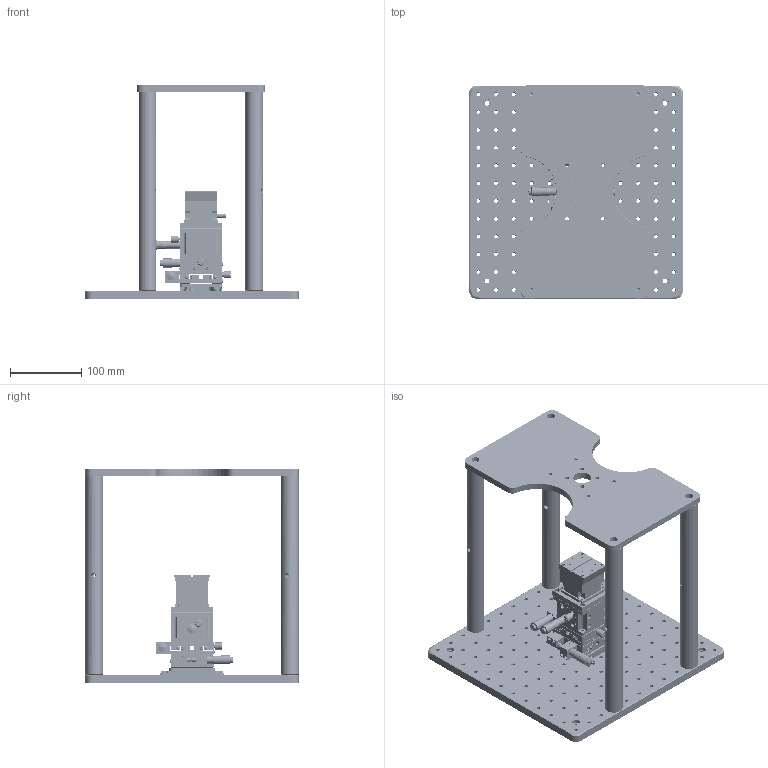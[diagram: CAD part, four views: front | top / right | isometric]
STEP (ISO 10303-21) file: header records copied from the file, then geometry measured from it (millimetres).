
FILE_DESCRIPTION (( 'STEP AP214' ), '1' );
FILE_NAME ('手动三轴60.STEP', '2026-05-08T06:11:20', ( '' ), ( '' ), 'SwSTEP 2.0', 'SolidWorks 2024', '' );
FILE_SCHEMA (( 'AUTOMOTIVE_DESIGN' ));
Length unit declared in the file: millimetre
Products named in the file (9): LO-NSB25-280B; 手动三轴60; lo-hzg-10-1_1.step; lo-mbb-3030_1 (2).step; p-611.3sf.step; lo-hlu-6.5-2_1 (3).step; 压电平台转接板; 底板60; 不锈钢板V3
Assembly tree (12 placements, depth 2):
  手动三轴60
    lo-hlu-6.5-2_1 (3).step  x2
    lo-hzg-10-1_1.step
    lo-mbb-3030_1 (2).step
    LO-NSB25-280B  x4
    不锈钢板V3
    p-611.3sf.step
    压电平台转接板
    底板60
Bounding box: 300 x 300 x 302 mm (x, y, z)
Volume: 2427277 mm3; surface area: 574105.4 mm2
Topology: 33 solids, 33 shells, 3631 faces, 9400 edges, 6033 vertices
Faces by surface type: plane 1455, cylinder 1245, cone 702, bspline 137, sphere 52, torus 40
Entity records: 97311 total; most frequent: CARTESIAN_POINT 31643, ORIENTED_EDGE 13832, DIRECTION 12896, EDGE_CURVE 6916, AXIS2_PLACEMENT_3D 5058, VERTEX_POINT 4436, EDGE_LOOP 3484, VECTOR 2780
